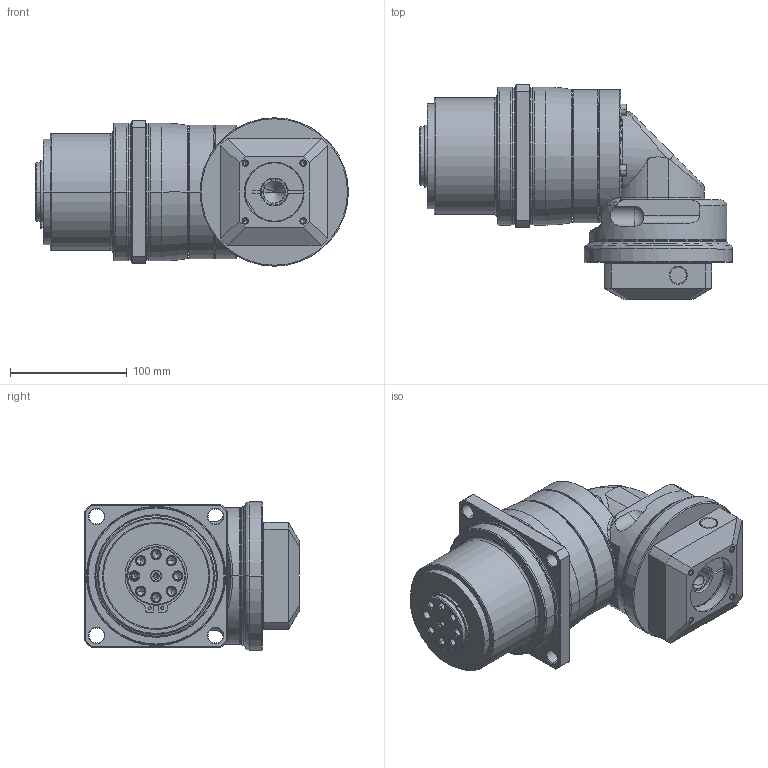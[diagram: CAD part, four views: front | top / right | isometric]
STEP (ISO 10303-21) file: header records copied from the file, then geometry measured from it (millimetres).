
FILE_DESCRIPTION((''),'2;1');
FILE_NAME('PLR120_2ST_19-P0411400101_ASM','2016-06-28T',('d00435'),(''),'PRO/ENGINEER BY PARAMETRIC TECHNOLOGY CORPORATION, 2008410','PRO/ENGINEER BY PARAMETRIC TECHNOLOGY CORPORATION, 2008410','');
FILE_SCHEMA(('CONFIG_CONTROL_DESIGN'));
Length unit declared in the file: millimetre
Products named in the file (11): P0272400001; P0366400001; 22802000029; P1356400001; P1349400001; P1017410001; P1350400001; P0411400101; P0503400008; P0713400001; PLR120_2ST_19-P0411400101_ASM
Assembly tree (10 placements, depth 2):
  PLR120_2ST_19-P0411400101_ASM
    P0272400001
    P0366400001
    22802000029
    P1356400001
    P1349400001
    P1017410001
    P1350400001
    P0411400101
    P0503400008
    P0713400001
Bounding box: 267.8 x 183.5 x 127 mm (x, y, z)
Volume: 2168425.9 mm3; surface area: 350564.6 mm2
Topology: 11 solids, 32 shells, 670 faces, 1561 edges, 933 vertices
Faces by surface type: cylinder 225, cone 196, plane 129, torus 88, bspline 30, sphere 2
Entity records: 22116 total; most frequent: CARTESIAN_POINT 6636, DIRECTION 3460, ORIENTED_EDGE 2942, EDGE_CURVE 1513, AXIS2_PLACEMENT_3D 1467, VERTEX_POINT 933, CIRCLE 796, EDGE_LOOP 772
